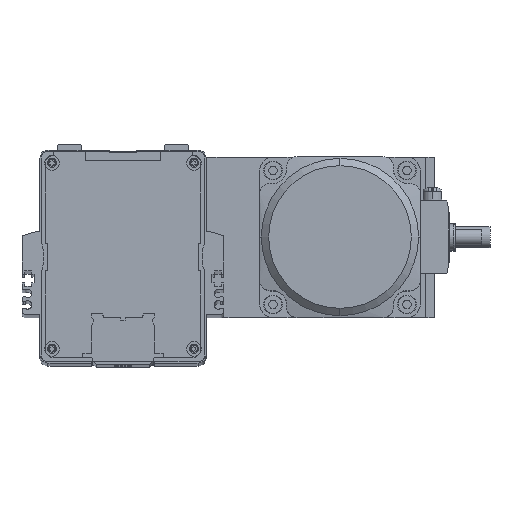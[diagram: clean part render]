
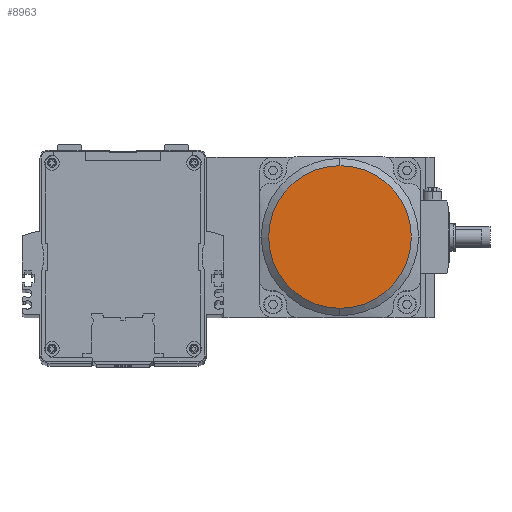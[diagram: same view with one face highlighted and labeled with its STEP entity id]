
A CAD part, top view. The second image highlights one B-rep face of the part: STEP entity #8963.
In plain terms, the highlighted planar face has unit normal (0, 0, 1).
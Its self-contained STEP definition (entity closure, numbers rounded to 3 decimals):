
#3849 = ORIENTED_EDGE ( 'NONE', *, *, #8696, .F. ) ;
#3864 = ORIENTED_EDGE ( 'NONE', *, *, #5346, .F. ) ;
#5346 = EDGE_CURVE ( 'NONE', #35250, #35156, #31286, .T. ) ;
#5869 = CARTESIAN_POINT ( 'NONE',  ( 268.19, -4.031, 99. ) ) ;
#5889 = DIRECTION ( 'NONE',  ( 0., -1., 0. ) ) ;
#6033 = DIRECTION ( 'NONE',  ( 0., 0., -1. ) ) ;
#8696 = EDGE_CURVE ( 'NONE', #35156, #35250, #17634, .T. ) ;
#8963 = ADVANCED_FACE ( 'NONE', ( #22323 ), #23410, .F. ) ;
#17634 = CIRCLE ( 'NONE', #17639, 26.616 ) ;
#17639 = AXIS2_PLACEMENT_3D ( 'NONE', #21119, #21120, #21121 ) ;
#17916 = AXIS2_PLACEMENT_3D ( 'NONE', #23411, #23412, #23413 ) ;
#21119 = CARTESIAN_POINT ( 'NONE',  ( 268.19, -4.031, 99. ) ) ;
#21120 = DIRECTION ( 'NONE',  ( 0., 0., -1. ) ) ;
#21121 = DIRECTION ( 'NONE',  ( 0., -1., 0. ) ) ;
#22323 = FACE_OUTER_BOUND ( 'NONE', #34707, .T. ) ;
#23410 = PLANE ( 'NONE',  #17916 ) ;
#23411 = CARTESIAN_POINT ( 'NONE',  ( 268.19, -4.031, 99. ) ) ;
#23412 = DIRECTION ( 'NONE',  ( 0., 0., -1. ) ) ;
#23413 = DIRECTION ( 'NONE',  ( 0., -1., 0. ) ) ;
#31167 = AXIS2_PLACEMENT_3D ( 'NONE', #5869, #6033, #5889 ) ;
#31286 = CIRCLE ( 'NONE', #31167, 26.616 ) ;
#31837 = CARTESIAN_POINT ( 'NONE',  ( 268.19, -30.647, 99. ) ) ;
#31931 = CARTESIAN_POINT ( 'NONE',  ( 268.19, 22.585, 99. ) ) ;
#34707 = EDGE_LOOP ( 'NONE', ( #3849, #3864 ) ) ;
#35156 = VERTEX_POINT ( 'NONE', #31837 ) ;
#35250 = VERTEX_POINT ( 'NONE', #31931 ) ;
